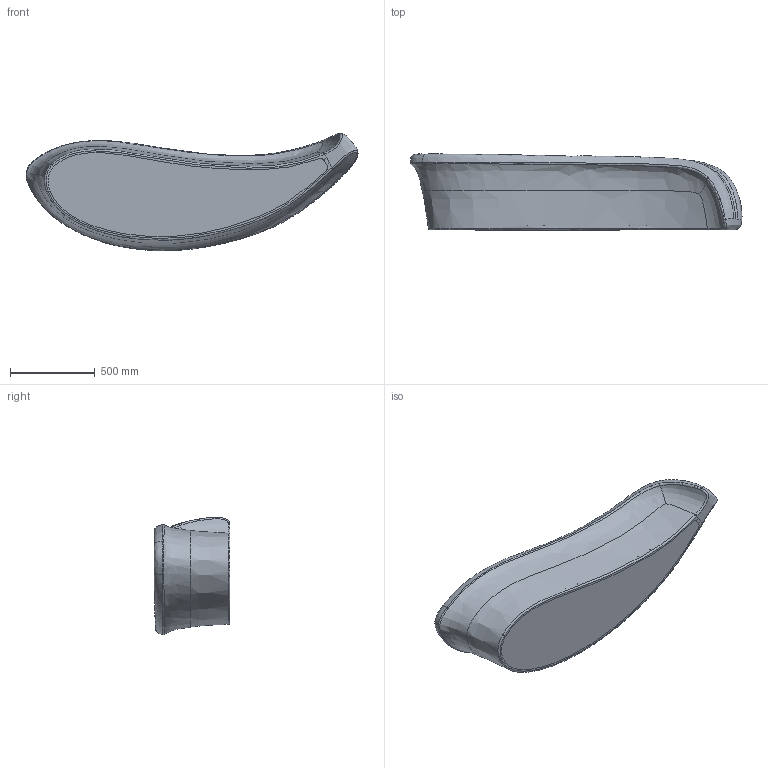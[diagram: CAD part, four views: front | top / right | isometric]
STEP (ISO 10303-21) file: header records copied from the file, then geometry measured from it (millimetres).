
FILE_DESCRIPTION (( 'STEP AP214' ), '1' );
FILE_NAME ('1334-T1-C1_RevB (Flat Base).STEP', '2026-08-25T11:32:17', ( '' ), ( '' ), 'SwSTEP 2.0', 'SolidWorks 2026', '' );
FILE_SCHEMA (( 'AUTOMOTIVE_DESIGN' ));
Length unit declared in the file: millimetre
Products named in the file (1): 1334-T1-C1_RevB (Flat Base)
Bounding box: 1958.49 x 447.96 x 691.91 mm (x, y, z)
Volume: 312793383.4 mm3; surface area: 3314586.8 mm2
Topology: 1 solids, 1 shells, 107 faces, 279 edges, 187 vertices
Faces by surface type: bspline 73, plane 18, cylinder 16
Entity records: 14810 total; most frequent: CARTESIAN_POINT 12845, ORIENTED_EDGE 558, EDGE_CURVE 279, B_SPLINE_CURVE_WITH_KNOTS 241, VERTEX_POINT 187, EDGE_LOOP 120, DIRECTION 108, FACE_OUTER_BOUND 107
